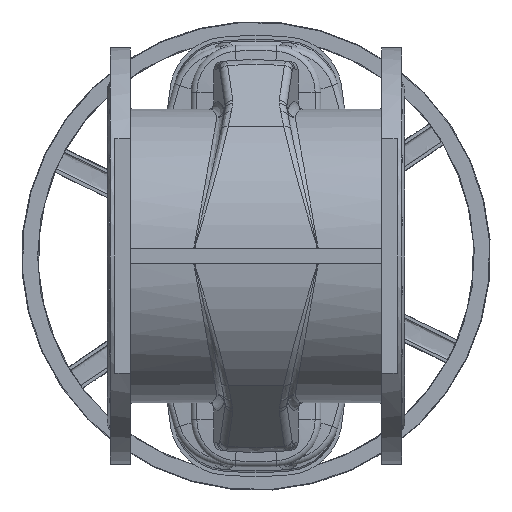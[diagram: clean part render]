
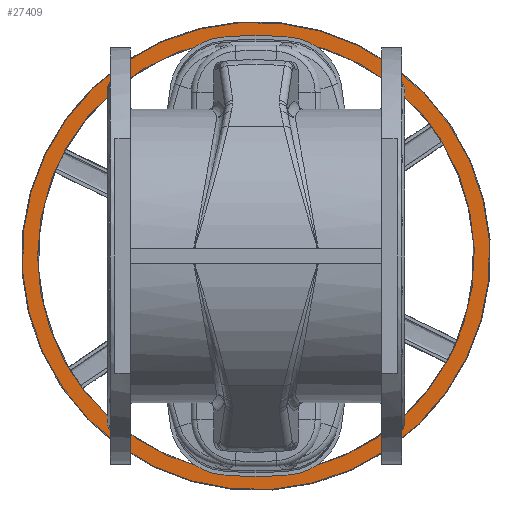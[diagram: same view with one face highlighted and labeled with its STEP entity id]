
A CAD part, front view. The second image highlights one B-rep face of the part: STEP entity #27409.
In plain terms, the highlighted planar face has unit normal (0, -1, 0).
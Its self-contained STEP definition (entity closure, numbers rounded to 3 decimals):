
#9692 = CARTESIAN_POINT ( 'NONE',  ( 0., 1209., 0. ) ) ;
#9694 = DIRECTION ( 'NONE',  ( 0., 1., 0. ) ) ;
#9696 = DIRECTION ( 'NONE',  ( -0.899, 0., 0.438 ) ) ;
#9701 = CARTESIAN_POINT ( 'NONE',  ( 0., 1209., 0. ) ) ;
#9703 = DIRECTION ( 'NONE',  ( 0., -1., 0. ) ) ;
#9705 = DIRECTION ( 'NONE',  ( -1., 0., 0. ) ) ;
#10856 = CIRCLE ( 'NONE', #18970, 299.116 ) ;
#10857 = CIRCLE ( 'NONE', #18972, 279.221 ) ;
#15381 = AXIS2_PLACEMENT_3D ( 'NONE', #21106, #21110, #21111 ) ;
#18970 = AXIS2_PLACEMENT_3D ( 'NONE', #9692, #9694, #9696 ) ;
#18972 = AXIS2_PLACEMENT_3D ( 'NONE', #9701, #9703, #9705 ) ;
#21106 = CARTESIAN_POINT ( 'NONE',  ( 265.297, 1209., -129.27 ) ) ;
#21108 = PLANE ( 'NONE',  #15381 ) ;
#21110 = DIRECTION ( 'NONE',  ( 0., 1., 0. ) ) ;
#21111 = DIRECTION ( 'NONE',  ( -0.899, 0., 0.438 ) ) ;
#21521 = EDGE_LOOP ( 'NONE', ( #24472 ) ) ;
#21526 = EDGE_LOOP ( 'NONE', ( #24473 ) ) ;
#22762 = FACE_BOUND ( 'NONE', #21526, .T. ) ;
#22773 = FACE_OUTER_BOUND ( 'NONE', #21521, .T. ) ;
#24472 = ORIENTED_EDGE ( 'NONE', *, *, #31768, .F. ) ;
#24473 = ORIENTED_EDGE ( 'NONE', *, *, #31769, .F. ) ;
#27409 = ADVANCED_FACE ( 'NONE', ( #22773, #22762 ), #21108, .F. ) ;
#28787 = VERTEX_POINT ( 'NONE', #38771 ) ;
#28788 = VERTEX_POINT ( 'NONE', #38772 ) ;
#31768 = EDGE_CURVE ( 'NONE', #28787, #28787, #10856, .T. ) ;
#31769 = EDGE_CURVE ( 'NONE', #28788, #28788, #10857, .T. ) ;
#38771 = CARTESIAN_POINT ( 'NONE',  ( -268.893, 1209., 131.022 ) ) ;
#38772 = CARTESIAN_POINT ( 'NONE',  ( -279.221, 1209., 0. ) ) ;
